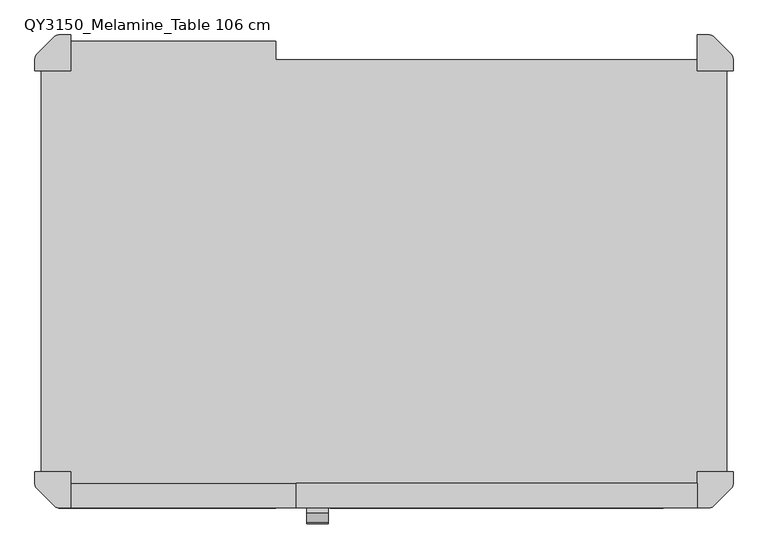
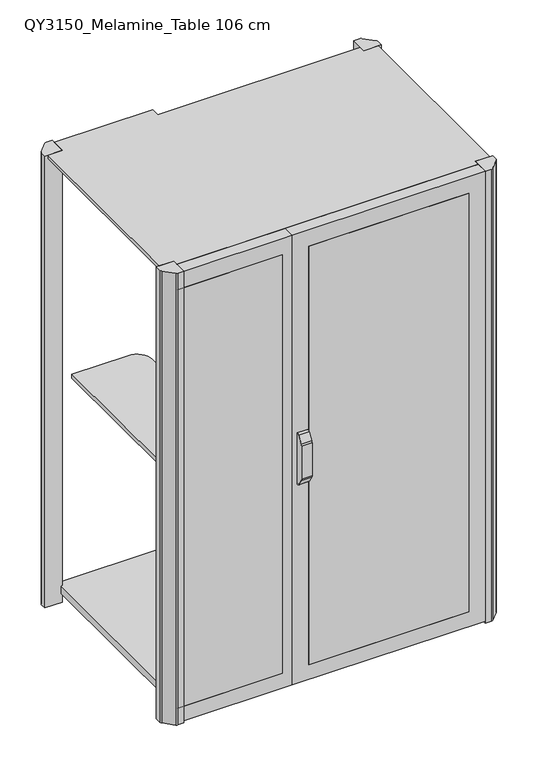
"""IFC4 building model written with IfcOpenShell, lengths in millimetres: furniture geometry, Qyos_150 : QY3150_Melamine_Table 106 cm."""

from ifc_helpers import new_model, si_unit, point, frame, frame_2d, origin, origin_with_axes, place, context, project, spatial, polyline, circle_curve, trimmed, segment, composite_curve, outline, extrude, source, transform, mapped, element, save
from ifc_brep_helpers import plane_surface, cylinder_surface, revolved_surface, advanced_brep


def qy3150_melamine_table_106_cm_4c9414e4(model_context):
    return source(origin(), model_context, "Body", "SolidModel", [
        extrude(outline(composite_curve([segment(polyline([(-701.0, -358.0), (-701.0, 358.0), (-441.0, 358.0)]), True, "CONTINUOUS"), segment(trimmed(circle_curve(frame_2d((-441.0, 288.0)), 70.0), [point((-441.0, 358.0))], [point((-371.0, 288.0))], False, "CARTESIAN"), True, "CONTINUOUS"), segment(polyline([(-371.0, 288.0), (-371.0, -288.0)]), True, "CONTINUOUS"), segment(trimmed(circle_curve(frame_2d((-441.0, -288.0)), 70.0), [point((-371.0, -288.0))], [point((-441.0, -358.0))], False, "CARTESIAN"), True, "CONTINUOUS"), segment(polyline([(-441.0, -358.0), (-701.0, -358.0)]), True, "CONTINUOUS")], self_intersect=False)), frame((0.0, 0.0, 1147.0), z_axis=(0.0, 0.0, 1.0), x_axis=(1.0, 0.0, 0.0)), (0.0, 0.0, 1.0), 19.0),
        advanced_brep(
        [(-124.0102042, -525.6314016, 980.9779398), (-124.0102042, -525.6314016, 985.9647191), (-124.0102042, -537.9469969, 991.7354618), (-124.0102042, -555.0438473, 1019.0961419), (-124.0102042, -557.6320377, 1028.7554001), (-124.0102042, -557.6320377, 1173.7554001), (-124.0102042, -553.2020658, 1196.5456299), (-124.0102042, -536.4262787, 1221.4167571), (-124.0102042, -525.6314016, 1224.0702851), (-124.0102042, -525.6314016, 1230.9669096), (-124.0102042, -537.162848, 1226.3079029), (-124.0102042, -557.7819627, 1194.5572505), (-124.0102042, -560.5, 1186.1919919), (-124.0102042, -560.5, 1025.2), (-124.0102042, -557.5610872, 1017.1254034), (-124.0102042, -537.1968679, 985.7672556), (-171.9580619, -525.6314016, 1230.9669096), (-171.9580619, -525.6314016, 980.9779398), (-171.9580619, -537.1968679, 985.7672556), (-171.9580619, -557.5610872, 1017.1254034), (-171.9580619, -560.5, 1025.2), (-171.9580619, -560.5, 1186.1919919), (-171.9580619, -557.7819627, 1194.5572505), (-171.9580619, -537.162848, 1226.3079029), (-169.2887865, -525.6314016, 1224.0702851), (-169.2887865, -525.6314016, 985.9647191), (-169.2887865, -537.9469969, 991.7354618), (-169.2887865, -536.4262787, 1221.4167571), (-169.2887865, -553.2020658, 1196.5456299), (-169.2887865, -557.6320377, 1173.7554001), (-169.2887865, -557.6320377, 1028.7554001), (-169.2887865, -555.0438473, 1019.0961419)],
        [
            (0, 1),
            (1, 2, circle_curve(frame((-124.0102042, -525.4805644, 1002.3136249), z_axis=(-1.0, 0.0, 0.0), x_axis=(0.0, -1.0, 0.0)), 16.3496016)),
            (2, 3, circle_curve(frame((-124.0102042, 1120.4570487, 2047.0433119), z_axis=(-1.0, 0.0, 0.0), x_axis=(0.0, -1.0, 0.0)), 1965.7005461)),
            (3, 4, circle_curve(frame((-124.0102042, -540.0644692, 1028.286235), z_axis=(-1.0, 0.0, 0.0), x_axis=(0.0, -1.0, 0.0)), 17.5738323)),
            (4, 5),
            (5, 6, circle_curve(frame((-124.0102042, -496.7942676, 1173.7554001), z_axis=(-1.0, 0.0, 0.0), x_axis=(0.0, -1.0, 0.0)), 60.8377701)),
            (6, 7, circle_curve(frame((-124.0102042, -812.3576761, 1389.4415655), z_axis=(1.0, 0.0, 0.0), x_axis=(0.0, -1.0, 0.0)), 323.0641922)),
            (7, 8, circle_curve(frame((-124.0102042, -525.6314016, 1200.7860796), z_axis=(-1.0, 0.0, 0.0), x_axis=(0.0, -1.0, 0.0)), 23.2842055)),
            (8, 9),
            (9, 10, circle_curve(frame((-124.0102042, -527.4087289, 1218.7657801), z_axis=(1.0, 0.0, 0.0), x_axis=(0.0, -1.0, 0.0)), 12.3299009)),
            (10, 11, circle_curve(frame((-124.0102042, 71.0762231, 808.7424006), z_axis=(1.0, 0.0, 0.0), x_axis=(0.0, -1.0, 0.0)), 737.777552)),
            (11, 12, circle_curve(frame((-124.0102042, -541.7589098, 1184.7268438), z_axis=(1.0, 0.0, 0.0), x_axis=(0.0, -1.0, 0.0)), 18.7982744)),
            (12, 13),
            (13, 14, circle_curve(frame((-124.0102042, -513.525418, 1037.7252129), z_axis=(1.0, 0.0, 0.0), x_axis=(0.0, -1.0, 0.0)), 48.615762)),
            (14, 15, circle_curve(frame((-124.0102042, -160.5394908, 1252.6628295), z_axis=(1.0, 0.0, 0.0), x_axis=(0.0, -1.0, 0.0)), 461.6319174)),
            (15, 0, circle_curve(frame((-124.0102042, -527.6091735, 992.560998), z_axis=(1.0, 0.0, 0.0), x_axis=(0.0, -1.0, 0.0)), 11.7506945)),
            (16, 17),
            (17, 18, circle_curve(frame((-171.9580619, -527.6091735, 992.560998), z_axis=(-1.0, 0.0, 0.0), x_axis=(0.0, -1.0, 0.0)), 11.7506945)),
            (18, 19, circle_curve(frame((-171.9580619, -160.5394908, 1252.6628295), z_axis=(-1.0, 0.0, 0.0), x_axis=(0.0, -1.0, 0.0)), 461.6319174)),
            (19, 20, circle_curve(frame((-171.9580619, -513.525418, 1037.7252129), z_axis=(-1.0, 0.0, 0.0), x_axis=(0.0, -1.0, 0.0)), 48.615762)),
            (20, 21),
            (21, 22, circle_curve(frame((-171.9580619, -541.7589098, 1184.7268438), z_axis=(-1.0, 0.0, 0.0), x_axis=(0.0, -1.0, 0.0)), 18.7982744)),
            (22, 23, circle_curve(frame((-171.9580619, 71.0762231, 808.7424006), z_axis=(-1.0, 0.0, 0.0), x_axis=(0.0, -1.0, 0.0)), 737.777552)),
            (23, 16, circle_curve(frame((-171.9580619, -527.4087289, 1218.7657801), z_axis=(-1.0, 0.0, 0.0), x_axis=(0.0, -1.0, 0.0)), 12.3299009)),
            (16, 9),
            (8, 24),
            (24, 25),
            (25, 1),
            (0, 17),
            (15, 18),
            (14, 19),
            (13, 20),
            (12, 21),
            (11, 22),
            (10, 23),
            (26, 25, circle_curve(frame((-169.2887865, -525.4805644, 1002.3136249), z_axis=(1.0, 0.0, 0.0), x_axis=(0.0, -1.0, 0.0)), 16.3496016)),
            (24, 27, circle_curve(frame((-169.2887865, -525.6314016, 1200.7860796), z_axis=(1.0, 0.0, 0.0), x_axis=(0.0, -1.0, 0.0)), 23.2842055)),
            (27, 28, circle_curve(frame((-169.2887865, -812.3576761, 1389.4415655), z_axis=(-1.0, 0.0, 0.0), x_axis=(0.0, -1.0, 0.0)), 323.0641922)),
            (28, 29, circle_curve(frame((-169.2887865, -496.7942676, 1173.7554001), z_axis=(1.0, 0.0, 0.0), x_axis=(0.0, -1.0, 0.0)), 60.8377701)),
            (29, 30),
            (30, 31, circle_curve(frame((-169.2887865, -540.0644692, 1028.286235), z_axis=(1.0, 0.0, 0.0), x_axis=(0.0, -1.0, 0.0)), 17.5738323)),
            (31, 26, circle_curve(frame((-169.2887865, 1120.4570487, 2047.0433119), z_axis=(1.0, 0.0, 0.0), x_axis=(0.0, -1.0, 0.0)), 1965.7005461)),
            (26, 2),
            (31, 3),
            (30, 4),
            (29, 5),
            (28, 6),
            (27, 7),
        ],
        [
            plane_surface(frame((-124.0102042, -525.6314016, 980.9779398), z_axis=(1.0, 0.0, 0.0), x_axis=(0.0, 0.0, -1.0))),
            plane_surface(frame((-171.9580619, -525.6314016, 980.9779398), z_axis=(-1.0, 0.0, 0.0), x_axis=(0.0, 0.0, 1.0))),
            plane_surface(frame((-124.0102042, -525.6314016, 1230.9669096), z_axis=(0.0, 1.0, 0.0), x_axis=(-1.0, 0.0, 0.0))),
            cylinder_surface(frame((-171.9580619, -527.6091735, 992.560998), z_axis=(1.0, 0.0, 0.0), x_axis=(0.0, -1.0, 0.0)), 11.7506945),
            cylinder_surface(frame((-171.9580619, -160.5394908, 1252.6628295), z_axis=(1.0, 0.0, 0.0), x_axis=(0.0, -1.0, 0.0)), 461.6319174),
            cylinder_surface(frame((-171.9580619, -513.525418, 1037.7252129), z_axis=(1.0, 0.0, 0.0), x_axis=(0.0, -1.0, 0.0)), 48.615762),
            plane_surface(frame((-124.0102042, -560.5, 1025.2), z_axis=(0.0, -1.0, 0.0), x_axis=(-1.0, 0.0, 0.0))),
            cylinder_surface(frame((-171.9580619, -541.7589098, 1184.7268438), z_axis=(1.0, 0.0, 0.0), x_axis=(0.0, -1.0, 0.0)), 18.7982744),
            cylinder_surface(frame((-171.9580619, 71.0762231, 808.7424006), z_axis=(1.0, 0.0, 0.0), x_axis=(0.0, -1.0, 0.0)), 737.777552),
            cylinder_surface(frame((-171.9580619, -527.4087289, 1218.7657801), z_axis=(1.0, 0.0, 0.0), x_axis=(0.0, -1.0, 0.0)), 12.3299009),
            plane_surface(frame((-169.2887865, -511.7185794, 1224.0702851), z_axis=(1.0, 0.0, 0.0), x_axis=(0.0, 0.0, 1.0))),
            revolved_surface(polyline([(-124.0102042, -541.8301660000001, 1002.3136249), (-169.2887865, -541.8301660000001, 1002.3136249)]), (-169.2887865, -525.4805644, 1002.3136249), (1.0, 0.0, 0.0)),
            revolved_surface(polyline([(-124.0102042, -845.2434974, 2047.0433119), (-169.2887865, -845.2434974, 2047.0433119)]), (-169.2887865, 1120.4570487, 2047.0433119), (1.0, 0.0, 0.0)),
            revolved_surface(polyline([(-124.0102042, -557.6383015, 1028.286235), (-169.2887865, -557.6383015, 1028.286235)]), (-169.2887865, -540.0644692, 1028.286235), (1.0, 0.0, 0.0)),
            plane_surface(frame((-116.8041752, -557.6320377, 1028.7554001), z_axis=(0.0, 1.0, 0.0), x_axis=(-1.0, 0.0, 0.0))),
            revolved_surface(polyline([(-124.0102042, -557.6320377, 1173.7554001), (-169.2887865, -557.6320377, 1173.7554001)]), (-169.2887865, -496.7942676, 1173.7554001), (1.0, 0.0, 0.0)),
            cylinder_surface(frame((-169.2887865, -812.3576761, 1389.4415655), z_axis=(-1.0, 0.0, 0.0), x_axis=(0.0, -1.0, 0.0)), 323.0641922),
            revolved_surface(polyline([(-124.0102042, -548.9156071, 1200.7860796), (-169.2887865, -548.9156071, 1200.7860796)]), (-169.2887865, -525.6314016, 1200.7860796), (1.0, 0.0, 0.0)),
        ],
        [
            (0, [[1, 2, 3, 4, 5, 6, 7, 8, 9, 10, 11, 12, 13, 14, 15, 16]]),
            (1, [[17, 18, 19, 20, 21, 22, 23, 24]]),
            (2, [[25, -9, 26, 27, 28, -1, 29, -17]]),
            (3, [[30, -18, -29, -16]]),
            (4, [[31, -19, -30, -15]]),
            (5, [[32, -20, -31, -14]]),
            (6, [[33, -21, -32, -13]]),
            (7, [[34, -22, -33, -12]]),
            (8, [[35, -23, -34, -11]]),
            (9, [[-25, -24, -35, -10]]),
            (10, [[36, -27, 37, 38, 39, 40, 41, 42]]),
            (11, [[43, -2, -28, -36]]),
            (12, [[44, -3, -43, -42]]),
            (13, [[45, -4, -44, -41]]),
            (14, [[46, -5, -45, -40]]),
            (15, [[47, -6, -46, -39]]),
            (16, [[48, -7, -47, -38]]),
            (17, [[-26, -8, -48, -37]]),
        ],
    ),
        extrude(outline(composite_curve([segment(polyline([(1230.9669096, -127.0104804), (1230.9669096, -166.9737674)]), True, "CONTINUOUS"), segment(trimmed(circle_curve(frame_2d((1225.973762, -166.9737674)), 4.9931477), [point((1230.9669096, -166.9737674))], [point((1225.973762, -171.966915))], False, "CARTESIAN"), True, "CONTINUOUS"), segment(polyline([(1225.973762, -171.966915), (985.9710874, -171.966915)]), True, "CONTINUOUS"), segment(trimmed(circle_curve(frame_2d((985.9710874, -166.9737674)), 4.9931477), [point((985.9710874, -171.966915))], [point((980.9779398, -166.9737674))], False, "CARTESIAN"), True, "CONTINUOUS"), segment(polyline([(980.9779398, -166.9737674), (980.9779398, -127.008286)]), True, "CONTINUOUS"), segment(trimmed(circle_curve(frame_2d((983.9760215, -127.008286)), 2.9980817), [point((980.9779398, -127.008286))], [point((983.9760215, -124.0102042))], False, "CARTESIAN"), True, "CONTINUOUS"), segment(polyline([(983.9760215, -124.0102042), (985.9777208, -124.0102042)]), True, "CONTINUOUS"), segment(trimmed(circle_curve(frame_2d((985.9777208, -126.2607973)), 2.2505931), [point((985.9777208, -124.0102042))], [point((988.1941223, -125.8699859))], False, "CARTESIAN"), True, "CONTINUOUS"), segment(trimmed(circle_curve(frame_2d((1002.686839, -125.065358)), 14.5150358), [point((988.1941223, -125.8699859))], [point((999.6402401, -139.2570632))], True, "CARTESIAN"), True, "CONTINUOUS"), segment(trimmed(circle_curve(frame_2d((999.3564071, -147.27634)), 8.0242982), [point((999.6402401, -139.2570632))], [point((1007.3803501, -147.3518321))], False, "CARTESIAN"), True, "CONTINUOUS"), segment(trimmed(circle_curve(frame_2d((984.8527266, -150.8883916)), 22.803532), [point((1007.3803501, -147.3518321))], [point((1007.3098217, -154.8481834))], False, "CARTESIAN"), True, "CONTINUOUS"), segment(trimmed(circle_curve(frame_2d((1018.7344643, -156.8626561)), 11.600886), [point((1007.3098217, -154.8481834))], [point((1018.7344643, -168.4635421))], True, "CARTESIAN"), True, "CONTINUOUS"), segment(polyline([(1018.7344643, -168.4635421), (1193.2103851, -168.4635421)]), True, "CONTINUOUS"), segment(trimmed(circle_curve(frame_2d((1193.2103851, -156.4965825)), 11.9669596), [point((1193.2103851, -168.4635421))], [point((1205.1773447, -156.4965825))], True, "CARTESIAN"), True, "CONTINUOUS"), segment(polyline([(1205.1773447, -156.4965825), (1205.1773447, -147.9646776)]), True, "CONTINUOUS"), segment(trimmed(circle_curve(frame_2d((1213.8757406, -147.9646776)), 8.6983958), [point((1205.1773447, -147.9646776))], [point((1212.36528, -139.3984299))], False, "CARTESIAN"), True, "CONTINUOUS"), segment(trimmed(circle_curve(frame_2d((1209.9037954, -125.4386571)), 14.1751248), [point((1212.36528, -139.3984299))], [point((1224.0702851, -125.9333618))], True, "CARTESIAN"), True, "CONTINUOUS"), segment(trimmed(circle_curve(frame_2d((1225.9934427, -125.9333618)), 1.9231576), [point((1224.0702851, -125.9333618))], [point((1225.9934427, -124.0102042))], False, "CARTESIAN"), True, "CONTINUOUS"), segment(polyline([(1225.9934427, -124.0102042), (1227.9666334, -124.0102042)]), True, "CONTINUOUS"), segment(trimmed(circle_curve(frame_2d((1227.9666334, -127.0104804)), 3.0002762), [point((1227.9666334, -124.0102042))], [point((1230.9669096, -127.0104804))], False, "CARTESIAN"), True, "CONTINUOUS")], self_intersect=False)), frame((0.0, -525.6314016, 0.0), z_axis=(0.0, 1.0, 0.0), x_axis=(0.0, 0.0, 1.0)), (0.0, 0.0, 1.0), 0.6314016),
        advanced_brep(
        [(-124.0102042, -469.3642803, 980.9779398), (-124.0102042, -457.798814, 985.7672556), (-124.0102042, -437.4345947, 1017.1254034), (-124.0102042, -434.4956819, 1025.2), (-124.0102042, -434.4956819, 1186.1919919), (-124.0102042, -437.2137192, 1194.5572505), (-124.0102042, -457.8328339, 1226.3079029), (-124.0102042, -469.3642803, 1230.9669096), (-124.0102042, -469.3642803, 1224.0702851), (-124.0102042, -458.5694032, 1221.4167571), (-124.0102042, -441.7936161, 1196.5456299), (-124.0102042, -437.3636441, 1173.7554001), (-124.0102042, -437.3636441, 1028.7554001), (-124.0102042, -439.9518346, 1019.0961419), (-124.0102042, -457.048685, 991.7354618), (-124.0102042, -469.3642803, 985.9647191), (-171.9580619, -469.3642803, 1230.9669096), (-171.9580619, -457.8328339, 1226.3079029), (-171.9580619, -437.2137192, 1194.5572505), (-171.9580619, -434.4956819, 1186.1919919), (-171.9580619, -434.4956819, 1025.2), (-171.9580619, -437.4345947, 1017.1254034), (-171.9580619, -457.798814, 985.7672556), (-171.9580619, -469.3642803, 980.9779398), (-169.2887865, -469.3642803, 985.9647191), (-169.2887865, -469.3642803, 1224.0702851), (-169.2887865, -457.048685, 991.7354618), (-169.2887865, -439.9518346, 1019.0961419), (-169.2887865, -437.3636441, 1028.7554001), (-169.2887865, -437.3636441, 1173.7554001), (-169.2887865, -441.7936161, 1196.5456299), (-169.2887865, -458.5694032, 1221.4167571)],
        [
            (0, 1, circle_curve(frame((-124.0102042, -467.3865084, 992.560998), z_axis=(1.0, 0.0, 0.0), x_axis=(0.0, 1.0, 0.0)), 11.7506945)),
            (1, 2, circle_curve(frame((-124.0102042, -834.4561911, 1252.6628295), z_axis=(1.0, 0.0, 0.0), x_axis=(0.0, 1.0, 0.0)), 461.6319174)),
            (2, 3, circle_curve(frame((-124.0102042, -481.4702639, 1037.7252129), z_axis=(1.0, 0.0, 0.0), x_axis=(0.0, 1.0, 0.0)), 48.615762)),
            (3, 4),
            (4, 5, circle_curve(frame((-124.0102042, -453.236772, 1184.7268438), z_axis=(1.0, 0.0, 0.0), x_axis=(0.0, 1.0, 0.0)), 18.7982744)),
            (5, 6, circle_curve(frame((-124.0102042, -1066.071905, 808.7424006), z_axis=(1.0, 0.0, 0.0), x_axis=(0.0, 1.0, 0.0)), 737.777552)),
            (6, 7, circle_curve(frame((-124.0102042, -467.586953, 1218.7657801), z_axis=(1.0, 0.0, 0.0), x_axis=(0.0, 1.0, 0.0)), 12.3299009)),
            (7, 8),
            (8, 9, circle_curve(frame((-124.0102042, -469.3642803, 1200.7860796), z_axis=(-1.0, 0.0, 0.0), x_axis=(0.0, 1.0, 0.0)), 23.2842055)),
            (9, 10, circle_curve(frame((-124.0102042, -182.6380058, 1389.4415655), z_axis=(1.0, 0.0, 0.0), x_axis=(0.0, 1.0, 0.0)), 323.0641922)),
            (10, 11, circle_curve(frame((-124.0102042, -498.2014142, 1173.7554001), z_axis=(-1.0, 0.0, 0.0), x_axis=(0.0, 1.0, 0.0)), 60.8377701)),
            (11, 12),
            (12, 13, circle_curve(frame((-124.0102042, -454.9312127, 1028.286235), z_axis=(-1.0, 0.0, 0.0), x_axis=(0.0, 1.0, 0.0)), 17.5738323)),
            (13, 14, circle_curve(frame((-124.0102042, -2115.4527306, 2047.0433119), z_axis=(-1.0, 0.0, 0.0), x_axis=(0.0, 1.0, 0.0)), 1965.7005461)),
            (14, 15, circle_curve(frame((-124.0102042, -469.5151175, 1002.3136249), z_axis=(-1.0, 0.0, 0.0), x_axis=(0.0, 1.0, 0.0)), 16.3496016)),
            (15, 0),
            (16, 17, circle_curve(frame((-171.9580619, -467.586953, 1218.7657801), z_axis=(-1.0, 0.0, 0.0), x_axis=(0.0, 1.0, 0.0)), 12.3299009)),
            (17, 18, circle_curve(frame((-171.9580619, -1066.071905, 808.7424006), z_axis=(-1.0, 0.0, 0.0), x_axis=(0.0, 1.0, 0.0)), 737.777552)),
            (18, 19, circle_curve(frame((-171.9580619, -453.236772, 1184.7268438), z_axis=(-1.0, 0.0, 0.0), x_axis=(0.0, 1.0, 0.0)), 18.7982744)),
            (19, 20),
            (20, 21, circle_curve(frame((-171.9580619, -481.4702639, 1037.7252129), z_axis=(-1.0, 0.0, 0.0), x_axis=(0.0, 1.0, 0.0)), 48.615762)),
            (21, 22, circle_curve(frame((-171.9580619, -834.4561911, 1252.6628295), z_axis=(-1.0, 0.0, 0.0), x_axis=(0.0, 1.0, 0.0)), 461.6319174)),
            (22, 23, circle_curve(frame((-171.9580619, -467.3865084, 992.560998), z_axis=(-1.0, 0.0, 0.0), x_axis=(0.0, 1.0, 0.0)), 11.7506945)),
            (23, 16),
            (23, 0),
            (15, 24),
            (24, 25),
            (25, 8),
            (7, 16),
            (22, 1),
            (21, 2),
            (20, 3),
            (19, 4),
            (18, 5),
            (17, 6),
            (26, 27, circle_curve(frame((-169.2887865, -2115.4527306, 2047.0433119), z_axis=(1.0, 0.0, 0.0), x_axis=(0.0, 1.0, 0.0)), 1965.7005461)),
            (27, 28, circle_curve(frame((-169.2887865, -454.9312127, 1028.286235), z_axis=(1.0, 0.0, 0.0), x_axis=(0.0, 1.0, 0.0)), 17.5738323)),
            (28, 29),
            (29, 30, circle_curve(frame((-169.2887865, -498.2014142, 1173.7554001), z_axis=(1.0, 0.0, 0.0), x_axis=(0.0, 1.0, 0.0)), 60.8377701)),
            (30, 31, circle_curve(frame((-169.2887865, -182.6380058, 1389.4415655), z_axis=(-1.0, 0.0, 0.0), x_axis=(0.0, 1.0, 0.0)), 323.0641922)),
            (31, 25, circle_curve(frame((-169.2887865, -469.3642803, 1200.7860796), z_axis=(1.0, 0.0, 0.0), x_axis=(0.0, 1.0, 0.0)), 23.2842055)),
            (24, 26, circle_curve(frame((-169.2887865, -469.5151175, 1002.3136249), z_axis=(1.0, 0.0, 0.0), x_axis=(0.0, 1.0, 0.0)), 16.3496016)),
            (14, 26),
            (13, 27),
            (12, 28),
            (11, 29),
            (10, 30),
            (9, 31),
        ],
        [
            plane_surface(frame((-124.0102042, -469.3642803, 980.9779398), z_axis=(1.0, 0.0, 0.0), x_axis=(0.0, 0.0, -1.0))),
            plane_surface(frame((-171.9580619, -469.3642803, 980.9779398), z_axis=(-1.0, 0.0, 0.0), x_axis=(0.0, 0.0, 1.0))),
            plane_surface(frame((-124.0102042, -469.3642803, 1230.9669096), z_axis=(0.0, -1.0, 0.0), x_axis=(-1.0, 0.0, 0.0))),
            cylinder_surface(frame((-171.9580619, -467.3865084, 992.560998), z_axis=(1.0, 0.0, 0.0), x_axis=(0.0, 1.0, 0.0)), 11.7506945),
            cylinder_surface(frame((-171.9580619, -834.4561911, 1252.6628295), z_axis=(1.0, 0.0, 0.0), x_axis=(0.0, 1.0, 0.0)), 461.6319174),
            cylinder_surface(frame((-171.9580619, -481.4702639, 1037.7252129), z_axis=(1.0, 0.0, 0.0), x_axis=(0.0, 1.0, 0.0)), 48.615762),
            plane_surface(frame((-124.0102042, -434.4956819, 1025.2), z_axis=(0.0, 1.0, 0.0), x_axis=(-1.0, 0.0, 0.0))),
            cylinder_surface(frame((-171.9580619, -453.236772, 1184.7268438), z_axis=(1.0, 0.0, 0.0), x_axis=(0.0, 1.0, 0.0)), 18.7982744),
            cylinder_surface(frame((-171.9580619, -1066.071905, 808.7424006), z_axis=(1.0, 0.0, 0.0), x_axis=(0.0, 1.0, 0.0)), 737.777552),
            cylinder_surface(frame((-171.9580619, -467.586953, 1218.7657801), z_axis=(1.0, 0.0, 0.0), x_axis=(0.0, 1.0, 0.0)), 12.3299009),
            plane_surface(frame((-169.2887865, -483.2771024, 1224.0702851), z_axis=(1.0, 0.0, 0.0), x_axis=(0.0, 0.0, 1.0))),
            revolved_surface(polyline([(-124.0102042, -453.16551589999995, 1002.3136249), (-169.2887865, -453.16551589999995, 1002.3136249)]), (-169.2887865, -469.5151175, 1002.3136249), (1.0, 0.0, 0.0)),
            revolved_surface(polyline([(-124.0102042, -149.75218449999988, 2047.0433119), (-169.2887865, -149.75218449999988, 2047.0433119)]), (-169.2887865, -2115.4527306, 2047.0433119), (1.0, 0.0, 0.0)),
            revolved_surface(polyline([(-124.0102042, -437.3573804, 1028.286235), (-169.2887865, -437.3573804, 1028.286235)]), (-169.2887865, -454.9312127, 1028.286235), (1.0, 0.0, 0.0)),
            plane_surface(frame((-116.8041752, -437.3636441, 1028.7554001), z_axis=(0.0, -1.0, 0.0), x_axis=(-1.0, 0.0, 0.0))),
            revolved_surface(polyline([(-124.0102042, -437.3636441, 1173.7554001), (-169.2887865, -437.3636441, 1173.7554001)]), (-169.2887865, -498.2014142, 1173.7554001), (1.0, 0.0, 0.0)),
            cylinder_surface(frame((-169.2887865, -182.6380058, 1389.4415655), z_axis=(-1.0, 0.0, 0.0), x_axis=(0.0, 1.0, 0.0)), 323.0641922),
            revolved_surface(polyline([(-124.0102042, -446.08007480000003, 1200.7860796), (-169.2887865, -446.08007480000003, 1200.7860796)]), (-169.2887865, -469.3642803, 1200.7860796), (1.0, 0.0, 0.0)),
        ],
        [
            (0, [[1, 2, 3, 4, 5, 6, 7, 8, 9, 10, 11, 12, 13, 14, 15, 16]]),
            (1, [[17, 18, 19, 20, 21, 22, 23, 24]]),
            (2, [[-24, 25, -16, 26, 27, 28, -8, 29]]),
            (3, [[-1, -25, -23, 30]]),
            (4, [[-2, -30, -22, 31]]),
            (5, [[-3, -31, -21, 32]]),
            (6, [[-4, -32, -20, 33]]),
            (7, [[-5, -33, -19, 34]]),
            (8, [[-6, -34, -18, 35]]),
            (9, [[-7, -35, -17, -29]]),
            (10, [[36, 37, 38, 39, 40, 41, -27, 42]]),
            (11, [[-42, -26, -15, 43]]),
            (12, [[-36, -43, -14, 44]]),
            (13, [[-37, -44, -13, 45]]),
            (14, [[-38, -45, -12, 46]]),
            (15, [[-39, -46, -11, 47]]),
            (16, [[-40, -47, -10, 48]]),
            (17, [[-41, -48, -9, -28]]),
        ],
    ),
        extrude(outline(composite_curve([segment(polyline([(1230.9669096, -127.0104804), (1230.9669096, -166.9737674)]), True, "CONTINUOUS"), segment(trimmed(circle_curve(frame_2d((1225.973762, -166.9737674)), 4.9931477), [point((1230.9669096, -166.9737674))], [point((1225.973762, -171.966915))], False, "CARTESIAN"), True, "CONTINUOUS"), segment(polyline([(1225.973762, -171.966915), (985.9710874, -171.966915)]), True, "CONTINUOUS"), segment(trimmed(circle_curve(frame_2d((985.9710874, -166.9737674)), 4.9931477), [point((985.9710874, -171.966915))], [point((980.9779398, -166.9737674))], False, "CARTESIAN"), True, "CONTINUOUS"), segment(polyline([(980.9779398, -166.9737674), (980.9779398, -127.008286)]), True, "CONTINUOUS"), segment(trimmed(circle_curve(frame_2d((983.9760215, -127.008286)), 2.9980817), [point((980.9779398, -127.008286))], [point((983.9760215, -124.0102042))], False, "CARTESIAN"), True, "CONTINUOUS"), segment(polyline([(983.9760215, -124.0102042), (985.9777208, -124.0102042)]), True, "CONTINUOUS"), segment(trimmed(circle_curve(frame_2d((985.9777208, -126.2607973)), 2.2505931), [point((985.9777208, -124.0102042))], [point((988.1941223, -125.8699859))], False, "CARTESIAN"), True, "CONTINUOUS"), segment(trimmed(circle_curve(frame_2d((1002.686839, -125.065358)), 14.5150358), [point((988.1941223, -125.8699859))], [point((999.6402401, -139.2570632))], True, "CARTESIAN"), True, "CONTINUOUS"), segment(trimmed(circle_curve(frame_2d((999.3564071, -147.27634)), 8.0242982), [point((999.6402401, -139.2570632))], [point((1007.3803501, -147.3518321))], False, "CARTESIAN"), True, "CONTINUOUS"), segment(trimmed(circle_curve(frame_2d((984.8527266, -150.8883916)), 22.803532), [point((1007.3803501, -147.3518321))], [point((1007.3098217, -154.8481834))], False, "CARTESIAN"), True, "CONTINUOUS"), segment(trimmed(circle_curve(frame_2d((1018.7344643, -156.8626561)), 11.600886), [point((1007.3098217, -154.8481834))], [point((1018.7344643, -168.4635421))], True, "CARTESIAN"), True, "CONTINUOUS"), segment(polyline([(1018.7344643, -168.4635421), (1193.2103851, -168.4635421)]), True, "CONTINUOUS"), segment(trimmed(circle_curve(frame_2d((1193.2103851, -156.4965825)), 11.9669596), [point((1193.2103851, -168.4635421))], [point((1205.1773447, -156.4965825))], True, "CARTESIAN"), True, "CONTINUOUS"), segment(polyline([(1205.1773447, -156.4965825), (1205.1773447, -147.9646776)]), True, "CONTINUOUS"), segment(trimmed(circle_curve(frame_2d((1213.8757406, -147.9646776)), 8.6983958), [point((1205.1773447, -147.9646776))], [point((1212.36528, -139.3984299))], False, "CARTESIAN"), True, "CONTINUOUS"), segment(trimmed(circle_curve(frame_2d((1209.9037954, -125.4386571)), 14.1751248), [point((1212.36528, -139.3984299))], [point((1224.0702851, -125.9333618))], True, "CARTESIAN"), True, "CONTINUOUS"), segment(trimmed(circle_curve(frame_2d((1225.9934427, -125.9333618)), 1.9231576), [point((1224.0702851, -125.9333618))], [point((1225.9934427, -124.0102042))], False, "CARTESIAN"), True, "CONTINUOUS"), segment(polyline([(1225.9934427, -124.0102042), (1227.9666334, -124.0102042)]), True, "CONTINUOUS"), segment(trimmed(circle_curve(frame_2d((1227.9666334, -127.0104804)), 3.0002762), [point((1227.9666334, -124.0102042))], [point((1230.9669096, -127.0104804))], False, "CARTESIAN"), True, "CONTINUOUS")], self_intersect=False)), frame((0.0, -469.9956819, 0.0), z_axis=(0.0, 1.0, 0.0), x_axis=(0.0, 0.0, 1.0)), (0.0, 0.0, 1.0), 0.6314016),
        extrude(outline(polyline([(619.5749028, -525.0), (-119.4250972, -525.0), (-119.4250972, -520.0), (619.5749028, -520.0), (619.5749028, -525.0)])), frame((0.0, 0.0, 82.0), z_axis=(0.0, 0.0, 1.0), x_axis=(1.0, 0.0, 0.0)), (0.0, 0.0, 1.0), 2040.1),
        extrude(outline(polyline([(10.0, -194.9250972), (10.0, 695.0749028), (2202.1, 695.0749028), (2202.1, -194.9250972), (10.0, -194.9250972)]), holes=[polyline([(82.0, 619.5749028), (82.0, -119.4250972), (2122.1, -119.4250972), (2122.1, 619.5749028), (82.0, 619.5749028)])]), frame((0.0, -525.0, 0.0), z_axis=(0.0, 1.0, 0.0), x_axis=(0.0, 0.0, 1.0)), (0.0, 0.0, 1.0), 55.0043181),
        advanced_brep(
        [(603.8585356, -382.0, 0.0), (650.1414644, -382.0, 0.0), (627.0, -382.0, 0.0), (603.8585356, -382.0, 7.0), (650.1414644, -382.0, 7.0), (617.3615446, -382.0, 7.0), (636.6384554, -382.0, 7.0), (617.3615446, -382.0, 17.0), (636.6384554, -382.0, 17.0), (627.0, -382.0, 17.0)],
        [
            (0, 1, circle_curve(frame((627.0, -382.0, 0.0), z_axis=(0.0, 0.0, -1.0), x_axis=(1.0, 0.0, 0.0)), 23.1414644)),
            (1, 2),
            (2, 0),
            (1, 0, circle_curve(frame((627.0, -382.0, 0.0), z_axis=(0.0, 0.0, -1.0), x_axis=(1.0, 0.0, 0.0)), 23.1414644)),
            (3, 4, circle_curve(frame((627.0, -382.0, 7.0), z_axis=(0.0, 0.0, -1.0), x_axis=(1.0, 0.0, 0.0)), 23.1414644)),
            (4, 1),
            (0, 3),
            (4, 3, circle_curve(frame((627.0, -382.0, 7.0), z_axis=(0.0, 0.0, -1.0), x_axis=(1.0, 0.0, 0.0)), 23.1414644)),
            (5, 6, circle_curve(frame((627.0, -382.0, 7.0), z_axis=(0.0, 0.0, -1.0), x_axis=(1.0, 0.0, 0.0)), 9.6384554)),
            (6, 4),
            (3, 5),
            (6, 5, circle_curve(frame((627.0, -382.0, 7.0), z_axis=(0.0, 0.0, -1.0), x_axis=(1.0, 0.0, 0.0)), 9.6384554)),
            (7, 8, circle_curve(frame((627.0, -382.0, 17.0), z_axis=(0.0, 0.0, -1.0), x_axis=(1.0, 0.0, 0.0)), 9.6384554)),
            (8, 6),
            (5, 7),
            (8, 7, circle_curve(frame((627.0, -382.0, 17.0), z_axis=(0.0, 0.0, -1.0), x_axis=(1.0, 0.0, 0.0)), 9.6384554)),
            (9, 8),
            (7, 9),
        ],
        [
            plane_surface(frame((627.0, -382.0, 0.0), z_axis=(0.0, 0.0, -1.0), x_axis=(1.0, 0.0, 0.0))),
            cylinder_surface(frame((627.0, -382.0, 1997.4144888), z_axis=(0.0, 0.0, 1.0), x_axis=(1.0, 0.0, 0.0)), 23.1414644),
            plane_surface(frame((627.0, -382.0, 7.0), z_axis=(0.0, 0.0, 1.0), x_axis=(1.0, 0.0, 0.0))),
            cylinder_surface(frame((627.0, -382.0, 1997.4144888), z_axis=(0.0, 0.0, 1.0), x_axis=(1.0, 0.0, 0.0)), 9.6384554),
            plane_surface(frame((627.0, -382.0, 17.0), z_axis=(0.0, 0.0, 1.0), x_axis=(1.0, 0.0, 0.0))),
        ],
        [
            (0, [[1, 2, 3]]),
            (0, [[4, -3, -2]]),
            (1, [[5, 6, -1, 7]]),
            (1, [[8, -7, -4, -6]]),
            (2, [[9, 10, -5, 11]]),
            (2, [[12, -11, -8, -10]]),
            (3, [[13, 14, -9, 15]]),
            (3, [[16, -15, -12, -14]]),
            (4, [[17, -13, 18]]),
            (4, [[-18, -16, -17]]),
        ],
    ),
        extrude(outline(composite_curve([segment(trimmed(circle_curve(frame_2d((627.0, -382.0)), 23.1414644), [point((603.8585356, -382.0))], [point((650.1414644, -382.0))], False, "CARTESIAN"), True, "CONTINUOUS"), segment(trimmed(circle_curve(frame_2d((627.0, -382.0)), 23.1414644), [point((650.1414644, -382.0))], [point((603.8585356, -382.0))], False, "CARTESIAN"), True, "CONTINUOUS")], self_intersect=False)), origin_with_axes(), (0.0, 0.0, 1.0), 7.0),
        advanced_brep(
        [(-198.1414644, -382.0, 0.0), (-151.8585356, -382.0, 0.0), (-175.0, -382.0, 0.0), (-198.1414644, -382.0, 7.0), (-151.8585356, -382.0, 7.0), (-184.6384554, -382.0, 7.0), (-165.3615446, -382.0, 7.0), (-184.6384554, -382.0, 17.0), (-165.3615446, -382.0, 17.0), (-175.0, -382.0, 17.0)],
        [
            (0, 1, circle_curve(frame((-175.0, -382.0, 0.0), z_axis=(0.0, 0.0, -1.0), x_axis=(1.0, 0.0, 0.0)), 23.1414644)),
            (1, 2),
            (2, 0),
            (1, 0, circle_curve(frame((-175.0, -382.0, 0.0), z_axis=(0.0, 0.0, -1.0), x_axis=(1.0, 0.0, 0.0)), 23.1414644)),
            (3, 4, circle_curve(frame((-175.0, -382.0, 7.0), z_axis=(0.0, 0.0, -1.0), x_axis=(1.0, 0.0, 0.0)), 23.1414644)),
            (4, 1),
            (0, 3),
            (4, 3, circle_curve(frame((-175.0, -382.0, 7.0), z_axis=(0.0, 0.0, -1.0), x_axis=(1.0, 0.0, 0.0)), 23.1414644)),
            (5, 6, circle_curve(frame((-175.0, -382.0, 7.0), z_axis=(0.0, 0.0, -1.0), x_axis=(1.0, 0.0, 0.0)), 9.6384554)),
            (6, 4),
            (3, 5),
            (6, 5, circle_curve(frame((-175.0, -382.0, 7.0), z_axis=(0.0, 0.0, -1.0), x_axis=(1.0, 0.0, 0.0)), 9.6384554)),
            (7, 8, circle_curve(frame((-175.0, -382.0, 17.0), z_axis=(0.0, 0.0, -1.0), x_axis=(1.0, 0.0, 0.0)), 9.6384554)),
            (8, 6),
            (5, 7),
            (8, 7, circle_curve(frame((-175.0, -382.0, 17.0), z_axis=(0.0, 0.0, -1.0), x_axis=(1.0, 0.0, 0.0)), 9.6384554)),
            (9, 8),
            (7, 9),
        ],
        [
            plane_surface(frame((-175.0, -382.0, 0.0), z_axis=(0.0, 0.0, -1.0), x_axis=(1.0, 0.0, 0.0))),
            cylinder_surface(frame((-175.0, -382.0, 1997.4144888), z_axis=(0.0, 0.0, 1.0), x_axis=(1.0, 0.0, 0.0)), 23.1414644),
            plane_surface(frame((-175.0, -382.0, 7.0), z_axis=(0.0, 0.0, 1.0), x_axis=(1.0, 0.0, 0.0))),
            cylinder_surface(frame((-175.0, -382.0, 1997.4144888), z_axis=(0.0, 0.0, 1.0), x_axis=(1.0, 0.0, 0.0)), 9.6384554),
            plane_surface(frame((-175.0, -382.0, 17.0), z_axis=(0.0, 0.0, 1.0), x_axis=(1.0, 0.0, 0.0))),
        ],
        [
            (0, [[1, 2, 3]]),
            (0, [[4, -3, -2]]),
            (1, [[5, 6, -1, 7]]),
            (1, [[8, -7, -4, -6]]),
            (2, [[9, 10, -5, 11]]),
            (2, [[12, -11, -8, -10]]),
            (3, [[13, 14, -9, 15]]),
            (3, [[16, -15, -12, -14]]),
            (4, [[17, -13, 18]]),
            (4, [[-18, -16, -17]]),
        ],
    ),
        extrude(outline(composite_curve([segment(trimmed(circle_curve(frame_2d((-175.0, -382.0)), 23.1414644), [point((-198.1414644, -382.0))], [point((-151.8585356, -382.0))], False, "CARTESIAN"), True, "CONTINUOUS"), segment(trimmed(circle_curve(frame_2d((-175.0, -382.0)), 23.1414644), [point((-151.8585356, -382.0))], [point((-198.1414644, -382.0))], False, "CARTESIAN"), True, "CONTINUOUS")], self_intersect=False)), origin_with_axes(), (0.0, 0.0, 1.0), 7.0),
        advanced_brep(
        [(-650.1414644, -382.0, 0.0), (-603.8585356, -382.0, 0.0), (-627.0, -382.0, 0.0), (-650.1414644, -382.0, 7.0), (-603.8585356, -382.0, 7.0), (-636.6384554, -382.0, 7.0), (-617.3615446, -382.0, 7.0), (-636.6384554, -382.0, 17.0), (-617.3615446, -382.0, 17.0), (-627.0, -382.0, 17.0)],
        [
            (0, 1, circle_curve(frame((-627.0, -382.0, 0.0), z_axis=(0.0, 0.0, -1.0), x_axis=(1.0, 0.0, 0.0)), 23.1414644)),
            (1, 2),
            (2, 0),
            (1, 0, circle_curve(frame((-627.0, -382.0, 0.0), z_axis=(0.0, 0.0, -1.0), x_axis=(1.0, 0.0, 0.0)), 23.1414644)),
            (3, 4, circle_curve(frame((-627.0, -382.0, 7.0), z_axis=(0.0, 0.0, -1.0), x_axis=(1.0, 0.0, 0.0)), 23.1414644)),
            (4, 1),
            (0, 3),
            (4, 3, circle_curve(frame((-627.0, -382.0, 7.0), z_axis=(0.0, 0.0, -1.0), x_axis=(1.0, 0.0, 0.0)), 23.1414644)),
            (5, 6, circle_curve(frame((-627.0, -382.0, 7.0), z_axis=(0.0, 0.0, -1.0), x_axis=(1.0, 0.0, 0.0)), 9.6384554)),
            (6, 4),
            (3, 5),
            (6, 5, circle_curve(frame((-627.0, -382.0, 7.0), z_axis=(0.0, 0.0, -1.0), x_axis=(1.0, 0.0, 0.0)), 9.6384554)),
            (7, 8, circle_curve(frame((-627.0, -382.0, 17.0), z_axis=(0.0, 0.0, -1.0), x_axis=(1.0, 0.0, 0.0)), 9.6384554)),
            (8, 6),
            (5, 7),
            (8, 7, circle_curve(frame((-627.0, -382.0, 17.0), z_axis=(0.0, 0.0, -1.0), x_axis=(1.0, 0.0, 0.0)), 9.6384554)),
            (9, 8),
            (7, 9),
        ],
        [
            plane_surface(frame((-627.0, -382.0, 0.0), z_axis=(0.0, 0.0, -1.0), x_axis=(1.0, 0.0, 0.0))),
            cylinder_surface(frame((-627.0, -382.0, 1997.4144888), z_axis=(0.0, 0.0, 1.0), x_axis=(1.0, 0.0, 0.0)), 23.1414644),
            plane_surface(frame((-627.0, -382.0, 7.0), z_axis=(0.0, 0.0, 1.0), x_axis=(1.0, 0.0, 0.0))),
            cylinder_surface(frame((-627.0, -382.0, 1997.4144888), z_axis=(0.0, 0.0, 1.0), x_axis=(1.0, 0.0, 0.0)), 9.6384554),
            plane_surface(frame((-627.0, -382.0, 17.0), z_axis=(0.0, 0.0, 1.0), x_axis=(1.0, 0.0, 0.0))),
        ],
        [
            (0, [[1, 2, 3]]),
            (0, [[4, -3, -2]]),
            (1, [[5, 6, -1, 7]]),
            (1, [[8, -7, -4, -6]]),
            (2, [[9, 10, -5, 11]]),
            (2, [[12, -11, -8, -10]]),
            (3, [[13, 14, -9, 15]]),
            (3, [[16, -15, -12, -14]]),
            (4, [[17, -13, 18]]),
            (4, [[-18, -16, -17]]),
        ],
    ),
        extrude(outline(composite_curve([segment(trimmed(circle_curve(frame_2d((-627.0, -382.0)), 23.1414644), [point((-650.1414644, -382.0))], [point((-603.8585356, -382.0))], False, "CARTESIAN"), True, "CONTINUOUS"), segment(trimmed(circle_curve(frame_2d((-627.0, -382.0)), 23.1414644), [point((-603.8585356, -382.0))], [point((-650.1414644, -382.0))], False, "CARTESIAN"), True, "CONTINUOUS")], self_intersect=False)), origin_with_axes(), (0.0, 0.0, 1.0), 7.0),
        advanced_brep(
        [(-650.1414644, 382.0, 0.0), (-603.8585356, 382.0, 0.0), (-627.0, 382.0, 0.0), (-650.1414644, 382.0, 7.0), (-603.8585356, 382.0, 7.0), (-636.6384554, 382.0, 7.0), (-617.3615446, 382.0, 7.0), (-636.6384554, 382.0, 17.0), (-617.3615446, 382.0, 17.0), (-627.0, 382.0, 17.0)],
        [
            (0, 1, circle_curve(frame((-627.0, 382.0, 0.0), z_axis=(0.0, 0.0, -1.0), x_axis=(1.0, 0.0, 0.0)), 23.1414644)),
            (1, 2),
            (2, 0),
            (1, 0, circle_curve(frame((-627.0, 382.0, 0.0), z_axis=(0.0, 0.0, -1.0), x_axis=(1.0, 0.0, 0.0)), 23.1414644)),
            (3, 4, circle_curve(frame((-627.0, 382.0, 7.0), z_axis=(0.0, 0.0, -1.0), x_axis=(1.0, 0.0, 0.0)), 23.1414644)),
            (4, 1),
            (0, 3),
            (4, 3, circle_curve(frame((-627.0, 382.0, 7.0), z_axis=(0.0, 0.0, -1.0), x_axis=(1.0, 0.0, 0.0)), 23.1414644)),
            (5, 6, circle_curve(frame((-627.0, 382.0, 7.0), z_axis=(0.0, 0.0, -1.0), x_axis=(1.0, 0.0, 0.0)), 9.6384554)),
            (6, 4),
            (3, 5),
            (6, 5, circle_curve(frame((-627.0, 382.0, 7.0), z_axis=(0.0, 0.0, -1.0), x_axis=(1.0, 0.0, 0.0)), 9.6384554)),
            (7, 8, circle_curve(frame((-627.0, 382.0, 17.0), z_axis=(0.0, 0.0, -1.0), x_axis=(1.0, 0.0, 0.0)), 9.6384554)),
            (8, 6),
            (5, 7),
            (8, 7, circle_curve(frame((-627.0, 382.0, 17.0), z_axis=(0.0, 0.0, -1.0), x_axis=(1.0, 0.0, 0.0)), 9.6384554)),
            (9, 8),
            (7, 9),
        ],
        [
            plane_surface(frame((-627.0, 382.0, 0.0), z_axis=(0.0, 0.0, -1.0), x_axis=(1.0, 0.0, 0.0))),
            cylinder_surface(frame((-627.0, 382.0, 1997.4144888), z_axis=(0.0, 0.0, 1.0), x_axis=(1.0, 0.0, 0.0)), 23.1414644),
            plane_surface(frame((-627.0, 382.0, 7.0), z_axis=(0.0, 0.0, 1.0), x_axis=(1.0, 0.0, 0.0))),
            cylinder_surface(frame((-627.0, 382.0, 1997.4144888), z_axis=(0.0, 0.0, 1.0), x_axis=(1.0, 0.0, 0.0)), 9.6384554),
            plane_surface(frame((-627.0, 382.0, 17.0), z_axis=(0.0, 0.0, 1.0), x_axis=(1.0, 0.0, 0.0))),
        ],
        [
            (0, [[1, 2, 3]]),
            (0, [[4, -3, -2]]),
            (1, [[5, 6, -1, 7]]),
            (1, [[8, -7, -4, -6]]),
            (2, [[9, 10, -5, 11]]),
            (2, [[12, -11, -8, -10]]),
            (3, [[13, 14, -9, 15]]),
            (3, [[16, -15, -12, -14]]),
            (4, [[17, -13, 18]]),
            (4, [[-18, -16, -17]]),
        ],
    ),
        extrude(outline(composite_curve([segment(trimmed(circle_curve(frame_2d((-627.0, 382.0)), 23.1414644), [point((-650.1414644, 382.0))], [point((-603.8585356, 382.0))], False, "CARTESIAN"), True, "CONTINUOUS"), segment(trimmed(circle_curve(frame_2d((-627.0, 382.0)), 23.1414644), [point((-603.8585356, 382.0))], [point((-650.1414644, 382.0))], False, "CARTESIAN"), True, "CONTINUOUS")], self_intersect=False)), origin_with_axes(), (0.0, 0.0, 1.0), 7.0),
        advanced_brep(
        [(-198.1414644, 382.0, 0.0), (-151.8585356, 382.0, 0.0), (-175.0, 382.0, 0.0), (-198.1414644, 382.0, 7.0), (-151.8585356, 382.0, 7.0), (-184.6384554, 382.0, 7.0), (-165.3615446, 382.0, 7.0), (-184.6384554, 382.0, 17.0), (-165.3615446, 382.0, 17.0), (-175.0, 382.0, 17.0)],
        [
            (0, 1, circle_curve(frame((-175.0, 382.0, 0.0), z_axis=(0.0, 0.0, -1.0), x_axis=(1.0, 0.0, 0.0)), 23.1414644)),
            (1, 2),
            (2, 0),
            (1, 0, circle_curve(frame((-175.0, 382.0, 0.0), z_axis=(0.0, 0.0, -1.0), x_axis=(1.0, 0.0, 0.0)), 23.1414644)),
            (3, 4, circle_curve(frame((-175.0, 382.0, 7.0), z_axis=(0.0, 0.0, -1.0), x_axis=(1.0, 0.0, 0.0)), 23.1414644)),
            (4, 1),
            (0, 3),
            (4, 3, circle_curve(frame((-175.0, 382.0, 7.0), z_axis=(0.0, 0.0, -1.0), x_axis=(1.0, 0.0, 0.0)), 23.1414644)),
            (5, 6, circle_curve(frame((-175.0, 382.0, 7.0), z_axis=(0.0, 0.0, -1.0), x_axis=(1.0, 0.0, 0.0)), 9.6384554)),
            (6, 4),
            (3, 5),
            (6, 5, circle_curve(frame((-175.0, 382.0, 7.0), z_axis=(0.0, 0.0, -1.0), x_axis=(1.0, 0.0, 0.0)), 9.6384554)),
            (7, 8, circle_curve(frame((-175.0, 382.0, 17.0), z_axis=(0.0, 0.0, -1.0), x_axis=(1.0, 0.0, 0.0)), 9.6384554)),
            (8, 6),
            (5, 7),
            (8, 7, circle_curve(frame((-175.0, 382.0, 17.0), z_axis=(0.0, 0.0, -1.0), x_axis=(1.0, 0.0, 0.0)), 9.6384554)),
            (9, 8),
            (7, 9),
        ],
        [
            plane_surface(frame((-175.0, 382.0, 0.0), z_axis=(0.0, 0.0, -1.0), x_axis=(1.0, 0.0, 0.0))),
            cylinder_surface(frame((-175.0, 382.0, 1997.4144888), z_axis=(0.0, 0.0, 1.0), x_axis=(1.0, 0.0, 0.0)), 23.1414644),
            plane_surface(frame((-175.0, 382.0, 7.0), z_axis=(0.0, 0.0, 1.0), x_axis=(1.0, 0.0, 0.0))),
            cylinder_surface(frame((-175.0, 382.0, 1997.4144888), z_axis=(0.0, 0.0, 1.0), x_axis=(1.0, 0.0, 0.0)), 9.6384554),
            plane_surface(frame((-175.0, 382.0, 17.0), z_axis=(0.0, 0.0, 1.0), x_axis=(1.0, 0.0, 0.0))),
        ],
        [
            (0, [[1, 2, 3]]),
            (0, [[4, -3, -2]]),
            (1, [[5, 6, -1, 7]]),
            (1, [[8, -7, -4, -6]]),
            (2, [[9, 10, -5, 11]]),
            (2, [[12, -11, -8, -10]]),
            (3, [[13, 14, -9, 15]]),
            (3, [[16, -15, -12, -14]]),
            (4, [[17, -13, 18]]),
            (4, [[-18, -16, -17]]),
        ],
    ),
        extrude(outline(composite_curve([segment(trimmed(circle_curve(frame_2d((-175.0, 382.0)), 23.1414644), [point((-198.1414644, 382.0))], [point((-151.8585356, 382.0))], False, "CARTESIAN"), True, "CONTINUOUS"), segment(trimmed(circle_curve(frame_2d((-175.0, 382.0)), 23.1414644), [point((-151.8585356, 382.0))], [point((-198.1414644, 382.0))], False, "CARTESIAN"), True, "CONTINUOUS")], self_intersect=False)), origin_with_axes(), (0.0, 0.0, 1.0), 7.0),
        advanced_brep(
        [(603.8585356, 382.0, 0.0), (650.1414644, 382.0, 0.0), (627.0, 382.0, 0.0), (603.8585356, 382.0, 7.0), (650.1414644, 382.0, 7.0), (617.3615446, 382.0, 7.0), (636.6384554, 382.0, 7.0), (617.3615446, 382.0, 17.0), (636.6384554, 382.0, 17.0), (627.0, 382.0, 17.0)],
        [
            (0, 1, circle_curve(frame((627.0, 382.0, 0.0), z_axis=(0.0, 0.0, -1.0), x_axis=(1.0, 0.0, 0.0)), 23.1414644)),
            (1, 2),
            (2, 0),
            (1, 0, circle_curve(frame((627.0, 382.0, 0.0), z_axis=(0.0, 0.0, -1.0), x_axis=(1.0, 0.0, 0.0)), 23.1414644)),
            (3, 4, circle_curve(frame((627.0, 382.0, 7.0), z_axis=(0.0, 0.0, -1.0), x_axis=(1.0, 0.0, 0.0)), 23.1414644)),
            (4, 1),
            (0, 3),
            (4, 3, circle_curve(frame((627.0, 382.0, 7.0), z_axis=(0.0, 0.0, -1.0), x_axis=(1.0, 0.0, 0.0)), 23.1414644)),
            (5, 6, circle_curve(frame((627.0, 382.0, 7.0), z_axis=(0.0, 0.0, -1.0), x_axis=(1.0, 0.0, 0.0)), 9.6384554)),
            (6, 4),
            (3, 5),
            (6, 5, circle_curve(frame((627.0, 382.0, 7.0), z_axis=(0.0, 0.0, -1.0), x_axis=(1.0, 0.0, 0.0)), 9.6384554)),
            (7, 8, circle_curve(frame((627.0, 382.0, 17.0), z_axis=(0.0, 0.0, -1.0), x_axis=(1.0, 0.0, 0.0)), 9.6384554)),
            (8, 6),
            (5, 7),
            (8, 7, circle_curve(frame((627.0, 382.0, 17.0), z_axis=(0.0, 0.0, -1.0), x_axis=(1.0, 0.0, 0.0)), 9.6384554)),
            (9, 8),
            (7, 9),
        ],
        [
            plane_surface(frame((627.0, 382.0, 0.0), z_axis=(0.0, 0.0, -1.0), x_axis=(1.0, 0.0, 0.0))),
            cylinder_surface(frame((627.0, 382.0, 1997.4144888), z_axis=(0.0, 0.0, 1.0), x_axis=(1.0, 0.0, 0.0)), 23.1414644),
            plane_surface(frame((627.0, 382.0, 7.0), z_axis=(0.0, 0.0, 1.0), x_axis=(1.0, 0.0, 0.0))),
            cylinder_surface(frame((627.0, 382.0, 1997.4144888), z_axis=(0.0, 0.0, 1.0), x_axis=(1.0, 0.0, 0.0)), 9.6384554),
            plane_surface(frame((627.0, 382.0, 17.0), z_axis=(0.0, 0.0, 1.0), x_axis=(1.0, 0.0, 0.0))),
        ],
        [
            (0, [[1, 2, 3]]),
            (0, [[4, -3, -2]]),
            (1, [[5, 6, -1, 7]]),
            (1, [[8, -7, -4, -6]]),
            (2, [[9, 10, -5, 11]]),
            (2, [[12, -11, -8, -10]]),
            (3, [[13, 14, -9, 15]]),
            (3, [[16, -15, -12, -14]]),
            (4, [[17, -13, 18]]),
            (4, [[-18, -16, -17]]),
        ],
    ),
        extrude(outline(composite_curve([segment(trimmed(circle_curve(frame_2d((627.0, 382.0)), 23.1414644), [point((603.8585356, 382.0))], [point((650.1414644, 382.0))], False, "CARTESIAN"), True, "CONTINUOUS"), segment(trimmed(circle_curve(frame_2d((627.0, 382.0)), 23.1414644), [point((650.1414644, 382.0))], [point((603.8585356, 382.0))], False, "CARTESIAN"), True, "CONTINUOUS")], self_intersect=False)), origin_with_axes(), (0.0, 0.0, 1.0), 7.0),
        extrude(outline(composite_curve([segment(polyline([(-695.0, 445.0), (-775.0, 445.0), (-775.0, 472.5536246)]), True, "CONTINUOUS"), segment(trimmed(circle_curve(frame_2d((-763.0024364, 472.3118252)), 12.0), [point((-775.0, 472.5536246))], [point((-771.7960176, 480.4771745))], False, "CARTESIAN"), True, "CONTINUOUS"), segment(trimmed(circle_curve(frame_2d((-193.4303831, -56.568803)), 789.2560985), [point((-771.7960176, 480.4771745))], [point((-730.4763607, 521.7968315))], False, "CARTESIAN"), True, "CONTINUOUS"), segment(trimmed(circle_curve(frame_2d((-722.3110114, 513.0032502)), 12.0), [point((-730.4763607, 521.7968315))], [point((-722.5902872, 525.0))], False, "CARTESIAN"), True, "CONTINUOUS"), segment(polyline([(-722.5902872, 525.0), (-695.0, 525.0), (-695.0, 445.0)]), True, "CONTINUOUS")], self_intersect=False)), origin_with_axes(), (0.0, 0.0, 1.0), 2202.1),
        extrude(outline(composite_curve([segment(polyline([(695.0, 445.0), (695.0, 525.0), (722.5536246, 525.0)]), True, "CONTINUOUS"), segment(trimmed(circle_curve(frame_2d((722.3118252, 513.0024364)), 12.0), [point((722.5536246, 525.0))], [point((730.4771745, 521.7960176))], False, "CARTESIAN"), True, "CONTINUOUS"), segment(trimmed(circle_curve(frame_2d((193.431197, -56.5696169)), 789.2560985), [point((730.4771745, 521.7960176))], [point((771.7968315, 480.4763607))], False, "CARTESIAN"), True, "CONTINUOUS"), segment(trimmed(circle_curve(frame_2d((763.0032502, 472.3110114)), 12.0), [point((771.7968315, 480.4763607))], [point((775.0, 472.5902872))], False, "CARTESIAN"), True, "CONTINUOUS"), segment(polyline([(775.0, 472.5902872), (775.0, 445.0), (695.0, 445.0)]), True, "CONTINUOUS")], self_intersect=False)), origin_with_axes(), (0.0, 0.0, 1.0), 2202.1),
        extrude(outline(composite_curve([segment(polyline([(695.0, -445.0), (775.0, -445.0), (775.0, -472.5536246)]), True, "CONTINUOUS"), segment(trimmed(circle_curve(frame_2d((763.0024364, -472.3118252)), 12.0), [point((775.0, -472.5536246))], [point((771.7960176, -480.4771745))], False, "CARTESIAN"), True, "CONTINUOUS"), segment(trimmed(circle_curve(frame_2d((193.4303831, 56.568803)), 789.2560985), [point((771.7960176, -480.4771745))], [point((730.4763607, -521.7968315))], False, "CARTESIAN"), True, "CONTINUOUS"), segment(trimmed(circle_curve(frame_2d((722.3110114, -513.0032502)), 12.0), [point((730.4763607, -521.7968315))], [point((722.5902872, -525.0))], False, "CARTESIAN"), True, "CONTINUOUS"), segment(polyline([(722.5902872, -525.0), (695.0, -525.0), (695.0, -445.0)]), True, "CONTINUOUS")], self_intersect=False)), origin_with_axes(), (0.0, 0.0, 1.0), 2202.1),
        extrude(outline(composite_curve([segment(polyline([(-695.0, -445.0), (-695.0, -525.0), (-722.5536246, -525.0)]), True, "CONTINUOUS"), segment(trimmed(circle_curve(frame_2d((-722.3118252, -513.0024364)), 12.0), [point((-722.5536246, -525.0))], [point((-730.4771745, -521.7960176))], False, "CARTESIAN"), True, "CONTINUOUS"), segment(trimmed(circle_curve(frame_2d((-193.431197, 56.5696169)), 789.2560985), [point((-730.4771745, -521.7960176))], [point((-771.7968315, -480.4763607))], False, "CARTESIAN"), True, "CONTINUOUS"), segment(trimmed(circle_curve(frame_2d((-763.0032502, -472.3110114)), 12.0), [point((-771.7968315, -480.4763607))], [point((-775.0, -472.5902872))], False, "CARTESIAN"), True, "CONTINUOUS"), segment(polyline([(-775.0, -472.5902872), (-775.0, -445.0), (-695.0, -445.0)]), True, "CONTINUOUS")], self_intersect=False)), origin_with_axes(), (0.0, 0.0, 1.0), 2202.1),
        extrude(outline(polyline([(695.0, 470.0), (695.0, 445.0), (761.0, 445.0), (761.0, -445.0), (695.0, -445.0), (695.0, -469.9956819), (-695.0, -469.9956819), (-695.0, -445.0), (-761.0, -445.0), (-761.0, 445.0), (-695.0, 445.0), (-695.0, 511.0), (-239.9562864, 511.0), (-239.9562864, 470.0), (695.0, 470.0)])), frame((0.0, 0.0, 2186.1), z_axis=(0.0, 0.0, 1.0), x_axis=(1.0, 0.0, 0.0)), (0.0, 0.0, 1.0), 16.0),
        extrude(outline(polyline([(-239.9562864, -525.0), (-722.5536246, -525.0), (-722.5536246, -520.0), (-239.9562864, -520.0), (-239.9562864, -525.0)])), frame((0.0, 0.0, 82.0), z_axis=(0.0, 0.0, 1.0), x_axis=(1.0, 0.0, 0.0)), (0.0, 0.0, 1.0), 2040.1),
        extrude(outline(polyline([(-607.0, -469.9956819), (-647.0, -469.9956819), (-647.0, 470.0), (-607.0, 470.0), (-607.0, -469.9956819)])), frame((0.0, 0.0, 10.0), z_axis=(0.0, 0.0, 1.0), x_axis=(1.0, 0.0, 0.0)), (0.0, 0.0, 1.0), 37.0),
        extrude(outline(polyline([(-155.0, -469.9956819), (-195.0, -469.9956819), (-195.0, 470.0), (-155.0, 470.0), (-155.0, -469.9956819)])), frame((0.0, 0.0, 10.0), z_axis=(0.0, 0.0, 1.0), x_axis=(1.0, 0.0, 0.0)), (0.0, 0.0, 1.0), 37.0),
        extrude(outline(polyline([(647.0, -469.9956819), (607.0, -469.9956819), (607.0, 470.0), (647.0, 470.0), (647.0, -469.9956819)])), frame((0.0, 0.0, 10.0), z_axis=(0.0, 0.0, 1.0), x_axis=(1.0, 0.0, 0.0)), (0.0, 0.0, 1.0), 37.0),
        extrude(outline(polyline([(2122.1, -239.9562864), (82.0, -239.9562864), (82.0, -722.5536246), (10.0, -722.5536246), (10.0, -194.9250972), (2202.1, -194.9250972), (2202.1, -695.0), (2122.1, -695.0), (2122.1, -239.9562864)])), frame((0.0, -525.0, 0.0), z_axis=(0.0, 1.0, 0.0), x_axis=(0.0, 0.0, 1.0)), (0.0, 0.0, 1.0), 55.0043181),
        extrude(outline(polyline([(-701.0, 445.0), (-695.0, 445.0), (-695.0, 470.0), (695.0, 470.0), (695.0, 445.0), (701.0, 445.0), (701.0, -445.0), (695.0, -445.0), (695.0, -469.9956819), (-695.0, -469.9956819), (-695.0, -445.0), (-701.0, -445.0), (-701.0, 445.0)])), frame((0.0, 0.0, 47.0), z_axis=(0.0, 0.0, 1.0), x_axis=(1.0, 0.0, 0.0)), (0.0, 0.0, 1.0), 35.0),
    ])


if __name__ == "__main__":
    model = new_model("IFC4")
    model_context = context("Model", 3, world=origin())
    ifc_project = project(units=[si_unit("LENGTHUNIT", "METRE", prefix="MILLI")], contexts=[model_context])
    site = spatial("IfcSite", under=ifc_project)
    building = spatial("IfcBuilding", under=site)
    placement = place(None, origin())
    qy3150_melamine_table_106_cm_shape = qy3150_melamine_table_106_cm_4c9414e4(model_context)
    element("IfcFurniture", 1, ObjectType="Qyos_150 : QY3150_Melamine_Table 106 cm", at=placement, inside=building, context=model_context, shape_type="MappedRepresentation", body=[
        mapped(qy3150_melamine_table_106_cm_shape, transform((0.0, 0.0, 0.0), x_axis=(1.0, 0.0, 0.0), y_axis=(0.0, 1.0, 0.0), z_axis=(0.0, 0.0, 1.0))),
    ])
    save(model, "model.ifc")
